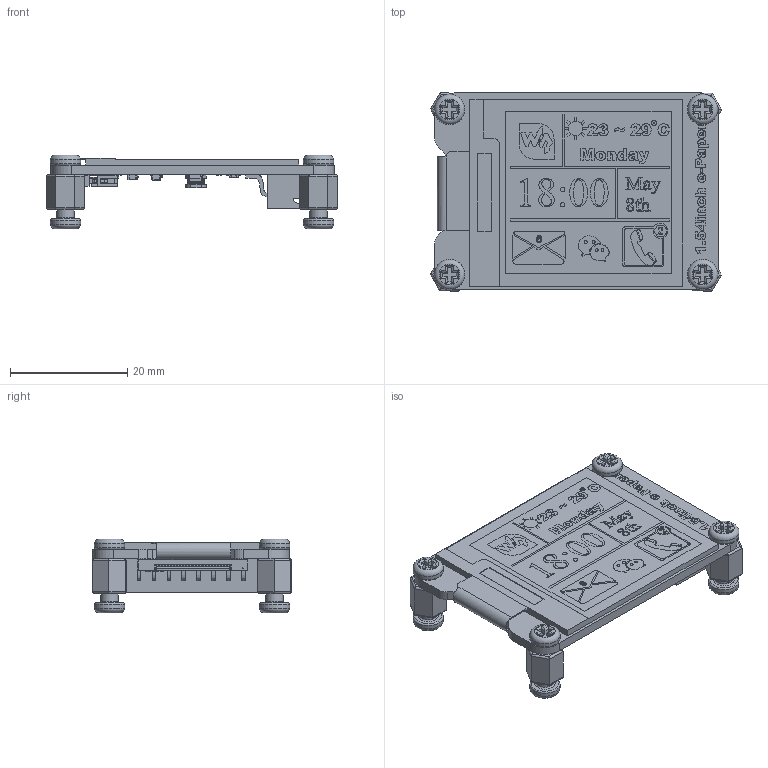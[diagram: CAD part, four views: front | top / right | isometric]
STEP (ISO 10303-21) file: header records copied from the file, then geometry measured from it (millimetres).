
FILE_DESCRIPTION(/* description */ ('Unknown'),/* implementation_level */ '2;1');
FILE_NAME(/* name */ 'Wavehsare 1.54in e-paper - Module',/* time_stamp */ '2018-10-29T15:19:45-04:00',/* author */ ('Unknown'),/* organization */ ('Unknown'),/* preprocessor_version */ 'ST-DEVELOPER v16.7',/* originating_system */ 'DEX',/* authorisation */ $);
FILE_SCHEMA (('AUTOMOTIVE_DESIGN {1 0 10303 214 3 1 1}'));
Products named in the file (12): Wavehsare 1.54in e-paper - Module; Waveshare 1.54 E ink - Display Folded; 524352433; 0603 Capacitor; CD32; Board; 0603 Resistor; SOT-23; Diode (SOD-323); JST XH 8 S8B-XH-A1 shrouded header connector v4; Standoff; Fastener
Assembly tree (36 placements, depth 2):
  Wavehsare 1.54in e-paper - Module
    Waveshare 1.54 E ink - Display Folded
    524352433
    0603 Capacitor  x12
    CD32
    Board
    0603 Resistor  x3
    SOT-23
    Diode (SOD-323)  x3
    JST XH 8 S8B-XH-A1 shrouded header connector v4
    Standoff  x4
    Fastener  x8
Bounding box: 49.56 x 33.81 x 12.55 mm (x, y, z)
Volume: 5231.5 mm3; surface area: 10419.5 mm2
Topology: 84 solids, 104 shells, 3710 faces, 9264 edges, 6041 vertices
Faces by surface type: plane 2895, cylinder 465, bspline 326, torus 24
Full cylindrical faces by diameter (mm): 0.294 x1, 0.454 x2, 0.508 x2, 0.867 x1, 1.527 x1, 2.037 x1, 2.159 x4, 2.475 x1, 2.972 x12, 5.156 x8
Entity records: 127055 total; most frequent: CARTESIAN_POINT 38339, ORIENTED_EDGE 15202, DIRECTION 12633, EDGE_CURVE 7601, LINE 6403, VECTOR 6403, VERTEX_POINT 5046, EDGE_LOOP 3335
